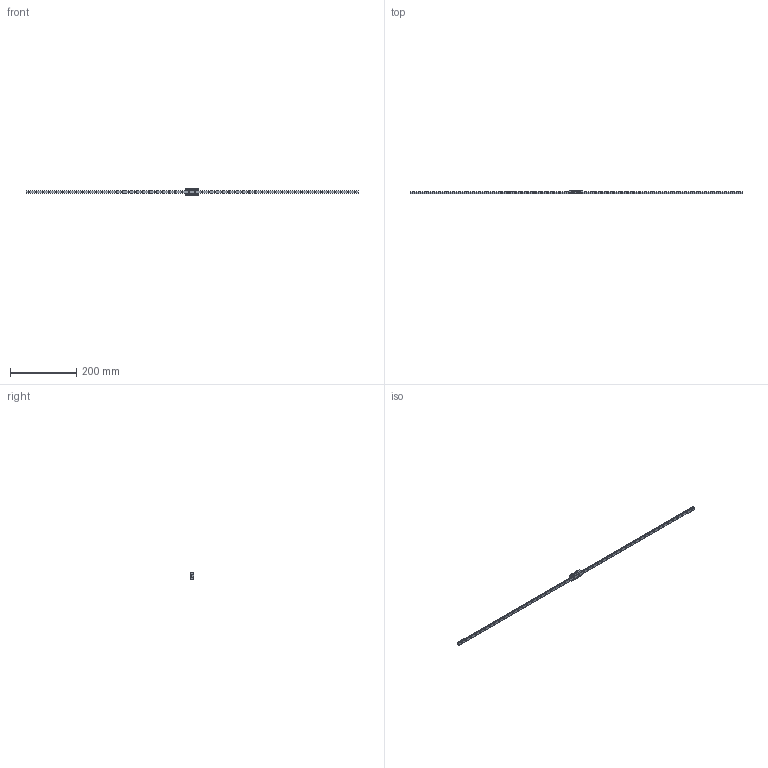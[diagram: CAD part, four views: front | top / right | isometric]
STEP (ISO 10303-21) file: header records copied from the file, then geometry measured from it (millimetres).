
FILE_DESCRIPTION( ( '' ), '1' );
FILE_NAME( 'C:/Users/v3-771-32344/Documents/Website 2016/STEP/SRS9XN1UU1000100479.6000.stp', '2016-11-10T13:09:04', ( '' ), ( '' ), ' ', ' ', ' ' );
FILE_SCHEMA( ( 'CONFIG_CONTROL_DESIGN' ) );
Length unit declared in the file: millimetre
Products named in the file (2): 1; 2
Bounding box: 1000 x 10 x 20 mm (x, y, z)
Volume: 45379.3 mm3; surface area: 34652.5 mm2
Topology: 2 solids, 2 shells, 386 faces, 958 edges, 624 vertices
Faces by surface type: cylinder 239, plane 131, cone 16
Entity records: 11888 total; most frequent: DIRECTION 2216, CARTESIAN_POINT 1962, ORIENTED_EDGE 1900, EDGE_CURVE 950, AXIS2_PLACEMENT_3D 878, VERTEX_POINT 624, EDGE_LOOP 542, CIRCLE 486
